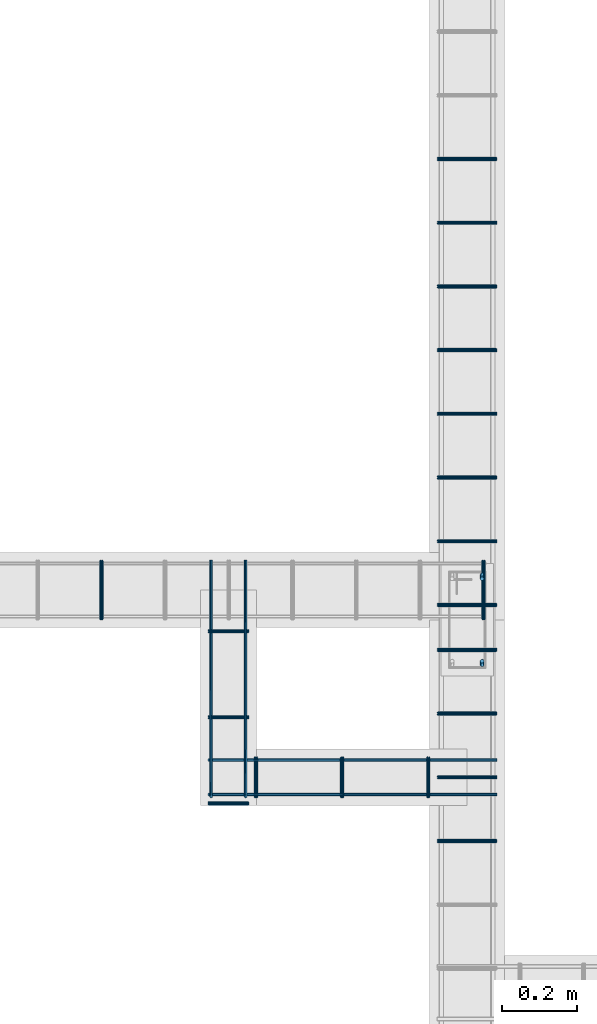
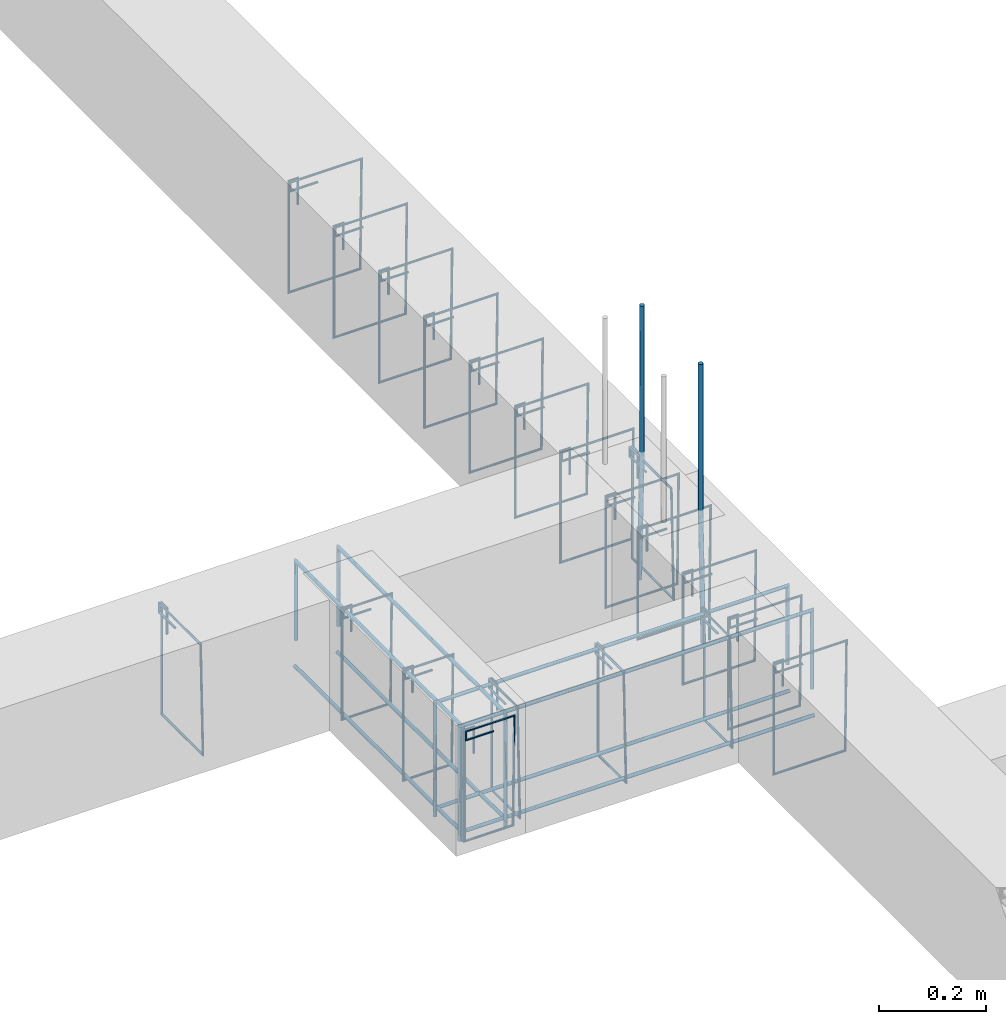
# One storey, part 65 of 150: 30 reinforcing bars.
"""IFC4 building model written with IfcOpenShell, lengths in centimetres."""

from ifc_helpers import new_model, entity, si_unit, derived_unit, frame, origin_with_axes, place, context, project, spatial, source, transform, mapped, element, save


model = new_model("IFC4")

# Units and contexts
model_context = context("Model", 3, precision=1e-05, world=origin_with_axes(), identifier="Body")
ifc_project = project(units=[si_unit("LENGTHUNIT", "METRE", prefix="CENTI"), si_unit("VOLUMEUNIT", "CUBIC_METRE"), si_unit("AREAUNIT", "SQUARE_METRE"), si_unit("POWERUNIT", "WATT"), si_unit("LUMINOUSFLUXUNIT", "LUMEN"), si_unit("ELECTRICCURRENTUNIT", "AMPERE"), si_unit("PRESSUREUNIT", "PASCAL", prefix="KILO"), si_unit("MASSUNIT", "GRAM", prefix="KILO"), si_unit("PLANEANGLEUNIT", "RADIAN"), derived_unit("VOLUMETRICFLOWRATEUNIT", [(si_unit("LENGTHUNIT", "METRE"), 3), (si_unit("TIMEUNIT", "SECOND"), -1)])], contexts=[model_context])

# Site, building, storey
site_placement = place(None, frame((-4000.0, 0.0, 0.0), z_axis=(0.0, 0.0, 1.0), x_axis=(1.0, 0.0, 0.0)))
site = spatial("IfcSite", under=ifc_project, at=site_placement, Name="PADRÃO")
building_placement = place(site_placement, frame((0.0, 0.0, -14.0)))
building = spatial("IfcBuilding", under=site, at=building_placement, Name="CRECHE PRÉ-ESCOLA TIPO 2")
placement = place(building_placement, origin_with_axes())
storey_placement = place(placement, frame((0.0, 0.0, 30.0), z_axis=(0.0, 0.0, 1.0), x_axis=(1.0, 0.0, 0.0)))
storey = spatial("IfcBuildingStorey", under=building, at=storey_placement, Name="VIGA BALDRAME", CompositionType="ELEMENT", Elevation=16.0)

# Reinforcing bars
shared_shape_1 = source(origin_with_axes(), model_context, "Body", "AdvancedSweptSolid", [
    entity("IfcSweptDiskSolid", entity("IfcCompositeCurve", [entity("IfcCompositeCurveSegment", "CONTINUOUS", True, entity("IfcPolyline", [entity("IfcCartesianPoint", [2.0, -6.0, 0.0]), entity("IfcCartesianPoint", [2.0, 0.0, 0.0])])), entity("IfcCompositeCurveSegment", "CONTINUOUS", True, entity("IfcPolyline", [entity("IfcCartesianPoint", [2.0, 0.0, 0.0]), entity("IfcCartesianPoint", [0.0, 0.0, 0.0])])), entity("IfcCompositeCurveSegment", "CONTINUOUS", True, entity("IfcPolyline", [entity("IfcCartesianPoint", [0.0, 0.0, 0.0]), entity("IfcCartesianPoint", [0.0, -25.5, 0.0])])), entity("IfcCompositeCurveSegment", "CONTINUOUS", True, entity("IfcPolyline", [entity("IfcCartesianPoint", [0.0, -25.5, 0.0]), entity("IfcCartesianPoint", [15.5, -25.5, 0.0])])), entity("IfcCompositeCurveSegment", "CONTINUOUS", True, entity("IfcPolyline", [entity("IfcCartesianPoint", [15.5, -25.5, 0.0]), entity("IfcCartesianPoint", [15.5, 0.0, 0.5])])), entity("IfcCompositeCurveSegment", "CONTINUOUS", True, entity("IfcPolyline", [entity("IfcCartesianPoint", [15.5, 0.0, 0.5]), entity("IfcCartesianPoint", [0.0, 0.0, 0.5])])), entity("IfcCompositeCurveSegment", "CONTINUOUS", True, entity("IfcPolyline", [entity("IfcCartesianPoint", [0.0, 0.0, 0.5]), entity("IfcCartesianPoint", [0.0, -2.0, 0.5])])), entity("IfcCompositeCurveSegment", "CONTINUOUS", True, entity("IfcPolyline", [entity("IfcCartesianPoint", [0.0, -2.0, 0.5]), entity("IfcCartesianPoint", [6.0, -2.0, 0.5])]))], False), 0.25),
])
for number, where, z_axis, x_axis, name in (
    (1, (495.94, 2669.255, -2.25), (0.0, -1.0, 0.0), (1.0, 0.0, 0.0), "V171 - Estribo"),
    (2, (495.94, 2652.255, -2.25), (0.0, -1.0, 0.0), (1.0, 0.0, 0.0), "V171 - Estribo"),
    (3, (495.94, 2618.255, -2.25), (0.0, -1.0, 0.0), (1.0, 0.0, 0.0), "V171 - Estribo"),
    (4, (495.94, 2635.255, -2.25), (0.0, -1.0, 0.0), (1.0, 0.0, 0.0), "V171 - Estribo"),
):
    element("IfcReinforcingBar", number, at=place(storey_placement, frame(where, z_axis=z_axis, x_axis=x_axis)), inside=storey, Name=name, BarLength=0.0, CrossSectionArea=1.9634954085e-05, NominalDiameter=0.5, PredefinedType="MAIN", context=model_context, shape_type="MappedRepresentation", body=[
        mapped(shared_shape_1, transform((0.0, 0.0, 0.0), scale=1.0)),
    ])
shared_shape_2 = source(origin_with_axes(), model_context, "Body", "AdvancedSweptSolid", [
    entity("IfcSweptDiskSolid", entity("IfcCompositeCurve", [entity("IfcCompositeCurveSegment", "CONTINUOUS", True, entity("IfcPolyline", [entity("IfcCartesianPoint", [2.0, -6.0, 0.0]), entity("IfcCartesianPoint", [2.0, 0.0, 0.0])])), entity("IfcCompositeCurveSegment", "CONTINUOUS", True, entity("IfcPolyline", [entity("IfcCartesianPoint", [2.0, 0.0, 0.0]), entity("IfcCartesianPoint", [0.0, 0.0, 0.0])])), entity("IfcCompositeCurveSegment", "CONTINUOUS", True, entity("IfcPolyline", [entity("IfcCartesianPoint", [0.0, 0.0, 0.0]), entity("IfcCartesianPoint", [0.0, -25.5, 0.0])])), entity("IfcCompositeCurveSegment", "CONTINUOUS", True, entity("IfcPolyline", [entity("IfcCartesianPoint", [0.0, -25.5, 0.0]), entity("IfcCartesianPoint", [15.5, -25.5, 0.0])])), entity("IfcCompositeCurveSegment", "CONTINUOUS", True, entity("IfcPolyline", [entity("IfcCartesianPoint", [15.5, -25.5, 0.0]), entity("IfcCartesianPoint", [15.5, 0.0, 0.5])])), entity("IfcCompositeCurveSegment", "CONTINUOUS", True, entity("IfcPolyline", [entity("IfcCartesianPoint", [15.5, 0.0, 0.5]), entity("IfcCartesianPoint", [0.0, 0.0, 0.5])])), entity("IfcCompositeCurveSegment", "CONTINUOUS", True, entity("IfcPolyline", [entity("IfcCartesianPoint", [0.0, 0.0, 0.5]), entity("IfcCartesianPoint", [0.0, -2.0, 0.5])])), entity("IfcCompositeCurveSegment", "CONTINUOUS", True, entity("IfcPolyline", [entity("IfcCartesianPoint", [0.0, -2.0, 0.5]), entity("IfcCartesianPoint", [6.0, -2.0, 0.5])]))], False), 0.25),
])
for number, where, z_axis, x_axis, name in (
    (5, (495.94, 2749.255, -2.25), (0.0, -1.0, 0.0), (1.0, 0.0, 0.0), "V171 - Estribo"),
    (6, (495.94, 2732.255, -2.25), (0.0, -1.0, 0.0), (1.0, 0.0, 0.0), "V171 - Estribo"),
    (7, (495.94, 2715.255, -2.25), (0.0, -1.0, 0.0), (1.0, 0.0, 0.0), "V171 - Estribo"),
    (8, (495.94, 2698.255, -2.25), (0.0, -1.0, 0.0), (1.0, 0.0, 0.0), "V171 - Estribo"),
    (9, (495.94, 2681.255, -2.25), (0.0, -1.0, 0.0), (1.0, 0.0, 0.0), "V171 - Estribo"),
    (10, (495.94, 2800.255, -2.25), (0.0, -1.0, 0.0), (1.0, 0.0, 0.0), "V171 - Estribo"),
    (11, (495.94, 2783.255, -2.25), (0.0, -1.0, 0.0), (1.0, 0.0, 0.0), "V171 - Estribo"),
    (12, (495.94, 2766.255, -2.25), (0.0, -1.0, 0.0), (1.0, 0.0, 0.0), "V171 - Estribo"),
):
    element("IfcReinforcingBar", number, at=place(storey_placement, frame(where, z_axis=z_axis, x_axis=x_axis)), inside=storey, Name=name, BarLength=0.0, CrossSectionArea=1.9634954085e-05, NominalDiameter=0.5, PredefinedType="MAIN", context=model_context, shape_type="MappedRepresentation", body=[
        mapped(shared_shape_2, transform((0.0, 0.0, 0.0), scale=1.0)),
    ])
shared_shape_3 = source(origin_with_axes(), model_context, "Body", "AdvancedSweptSolid", [
    entity("IfcSweptDiskSolid", entity("IfcCompositeCurve", [entity("IfcCompositeCurveSegment", "CONTINUOUS", True, entity("IfcPolyline", [entity("IfcCartesianPoint", [2.0, -6.0, 0.0]), entity("IfcCartesianPoint", [2.0, 0.0, 0.0])])), entity("IfcCompositeCurveSegment", "CONTINUOUS", True, entity("IfcPolyline", [entity("IfcCartesianPoint", [2.0, 0.0, 0.0]), entity("IfcCartesianPoint", [0.0, 0.0, 0.0])])), entity("IfcCompositeCurveSegment", "CONTINUOUS", True, entity("IfcPolyline", [entity("IfcCartesianPoint", [0.0, 0.0, 0.0]), entity("IfcCartesianPoint", [0.0, -25.5, 0.0])])), entity("IfcCompositeCurveSegment", "CONTINUOUS", True, entity("IfcPolyline", [entity("IfcCartesianPoint", [0.0, -25.5, 0.0]), entity("IfcCartesianPoint", [15.5, -25.5, 0.0])])), entity("IfcCompositeCurveSegment", "CONTINUOUS", True, entity("IfcPolyline", [entity("IfcCartesianPoint", [15.5, -25.5, 0.0]), entity("IfcCartesianPoint", [15.5, 0.0, 0.5])])), entity("IfcCompositeCurveSegment", "CONTINUOUS", True, entity("IfcPolyline", [entity("IfcCartesianPoint", [15.5, 0.0, 0.5]), entity("IfcCartesianPoint", [0.0, 0.0, 0.5])])), entity("IfcCompositeCurveSegment", "CONTINUOUS", True, entity("IfcPolyline", [entity("IfcCartesianPoint", [0.0, 0.0, 0.5]), entity("IfcCartesianPoint", [0.0, -2.0, 0.5])])), entity("IfcCompositeCurveSegment", "CONTINUOUS", True, entity("IfcPolyline", [entity("IfcCartesianPoint", [0.0, -2.0, 0.5]), entity("IfcCartesianPoint", [6.0, -2.0, 0.5])]))], False), 0.25),
])
for number, where, z_axis, x_axis, name in (
    (13, (508.345, 2692.76, -2.25), (-1.0, 0.0, 0.0), (0.0, -1.0, 0.0), "V117 - Estribo"),
    (14, (406.345, 2692.76, -2.25), (-1.0, 0.0, 0.0), (0.0, -1.0, 0.0), "V117 - Estribo"),
):
    element("IfcReinforcingBar", number, at=place(storey_placement, frame(where, z_axis=z_axis, x_axis=x_axis)), inside=storey, Name=name, BarLength=0.0, CrossSectionArea=1.9634954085e-05, NominalDiameter=0.5, PredefinedType="MAIN", context=model_context, shape_type="MappedRepresentation", body=[
        mapped(shared_shape_3, transform((0.0, 0.0, 0.0), scale=1.0)),
    ])
shared_shape_4 = source(origin_with_axes(), model_context, "Body", "AdvancedSweptSolid", [
    entity("IfcSweptDiskSolid", entity("IfcCompositeCurve", [entity("IfcCompositeCurveSegment", "CONTINUOUS", True, entity("IfcPolyline", [entity("IfcCartesianPoint", [2.0, -6.0, 0.0]), entity("IfcCartesianPoint", [2.0, 0.0, 0.0])])), entity("IfcCompositeCurveSegment", "CONTINUOUS", True, entity("IfcPolyline", [entity("IfcCartesianPoint", [2.0, 0.0, 0.0]), entity("IfcCartesianPoint", [0.0, 0.0, 0.0])])), entity("IfcCompositeCurveSegment", "CONTINUOUS", True, entity("IfcPolyline", [entity("IfcCartesianPoint", [0.0, 0.0, 0.0]), entity("IfcCartesianPoint", [0.0, -25.5, 0.0])])), entity("IfcCompositeCurveSegment", "CONTINUOUS", True, entity("IfcPolyline", [entity("IfcCartesianPoint", [0.0, -25.5, 0.0]), entity("IfcCartesianPoint", [10.5, -25.5, 0.0])])), entity("IfcCompositeCurveSegment", "CONTINUOUS", True, entity("IfcPolyline", [entity("IfcCartesianPoint", [10.5, -25.5, 0.0]), entity("IfcCartesianPoint", [10.5, 0.0, 0.5])])), entity("IfcCompositeCurveSegment", "CONTINUOUS", True, entity("IfcPolyline", [entity("IfcCartesianPoint", [10.5, 0.0, 0.5]), entity("IfcCartesianPoint", [0.0, 0.0, 0.5])])), entity("IfcCompositeCurveSegment", "CONTINUOUS", True, entity("IfcPolyline", [entity("IfcCartesianPoint", [0.0, 0.0, 0.5]), entity("IfcCartesianPoint", [0.0, -2.0, 0.5])])), entity("IfcCompositeCurveSegment", "CONTINUOUS", True, entity("IfcPolyline", [entity("IfcCartesianPoint", [0.0, -2.0, 0.5]), entity("IfcCartesianPoint", [6.0, -2.0, 0.5])]))], False), 0.25),
])
for number, where, z_axis, x_axis, name in (
    (15, (434.74, 2674.26, -2.25), (0.0, -1.0, 0.0), (1.0, 0.0, 0.0), "V170 - Estribo"),
    (16, (434.74, 2651.26, -2.25), (0.0, -1.0, 0.0), (1.0, 0.0, 0.0), "V170 - Estribo"),
    (17, (434.74, 2628.26, -2.25), (0.0, -1.0, 0.0), (1.0, 0.0, 0.0), "V170 - Estribo"),
):
    element("IfcReinforcingBar", number, at=place(storey_placement, frame(where, z_axis=z_axis, x_axis=x_axis)), inside=storey, Name=name, BarLength=0.0, CrossSectionArea=1.9634954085e-05, NominalDiameter=0.5, PredefinedType="MAIN", context=model_context, shape_type="MappedRepresentation", body=[
        mapped(shared_shape_4, transform((0.0, 0.0, 0.0), scale=1.0)),
    ])
shared_shape_5 = source(origin_with_axes(), model_context, "Body", "AdvancedSweptSolid", [
    entity("IfcSweptDiskSolid", entity("IfcCompositeCurve", [entity("IfcCompositeCurveSegment", "CONTINUOUS", True, entity("IfcPolyline", [entity("IfcCartesianPoint", [2.0, -6.0, 0.0]), entity("IfcCartesianPoint", [2.0, 0.0, 0.0])])), entity("IfcCompositeCurveSegment", "CONTINUOUS", True, entity("IfcPolyline", [entity("IfcCartesianPoint", [2.0, 0.0, 0.0]), entity("IfcCartesianPoint", [0.0, 0.0, 0.0])])), entity("IfcCompositeCurveSegment", "CONTINUOUS", True, entity("IfcPolyline", [entity("IfcCartesianPoint", [0.0, 0.0, 0.0]), entity("IfcCartesianPoint", [0.0, -25.5, 0.0])])), entity("IfcCompositeCurveSegment", "CONTINUOUS", True, entity("IfcPolyline", [entity("IfcCartesianPoint", [0.0, -25.5, 0.0]), entity("IfcCartesianPoint", [10.5, -25.5, 0.0])])), entity("IfcCompositeCurveSegment", "CONTINUOUS", True, entity("IfcPolyline", [entity("IfcCartesianPoint", [10.5, -25.5, 0.0]), entity("IfcCartesianPoint", [10.5, 0.0, 0.5])])), entity("IfcCompositeCurveSegment", "CONTINUOUS", True, entity("IfcPolyline", [entity("IfcCartesianPoint", [10.5, 0.0, 0.5]), entity("IfcCartesianPoint", [0.0, 0.0, 0.5])])), entity("IfcCompositeCurveSegment", "CONTINUOUS", True, entity("IfcPolyline", [entity("IfcCartesianPoint", [0.0, 0.0, 0.5]), entity("IfcCartesianPoint", [0.0, -2.0, 0.5])])), entity("IfcCompositeCurveSegment", "CONTINUOUS", True, entity("IfcPolyline", [entity("IfcCartesianPoint", [0.0, -2.0, 0.5]), entity("IfcCartesianPoint", [6.0, -2.0, 0.5])]))], False), 0.25),
])
for number, where, z_axis, x_axis, name in (
    (18, (493.59, 2640.26, -2.25), (-1.0, 0.0, 0.0), (0.0, -1.0, 0.0), "V119 - Estribo"),
    (19, (470.59, 2640.26, -2.25), (-1.0, 0.0, 0.0), (0.0, -1.0, 0.0), "V119 - Estribo"),
    (20, (447.59, 2640.26, -2.25), (-1.0, 0.0, 0.0), (0.0, -1.0, 0.0), "V119 - Estribo"),
):
    element("IfcReinforcingBar", number, at=place(storey_placement, frame(where, z_axis=z_axis, x_axis=x_axis)), inside=storey, Name=name, BarLength=0.0, CrossSectionArea=1.9634954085e-05, NominalDiameter=0.5, PredefinedType="MAIN", context=model_context, shape_type="MappedRepresentation", body=[
        mapped(shared_shape_5, transform((0.0, 0.0, 0.0), scale=1.0)),
    ])
reinforcing_bar_1_placement = place(storey_placement, frame((507.69, 2688.50986122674, 33.3573001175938), z_axis=(0.0, 0.0, 1.0), x_axis=(1.0, 0.0, 0.0)))
element("IfcReinforcingBar", 21, at=reinforcing_bar_1_placement, inside=storey, Name="P66 - Longitudinal", BarLength=0.0, CrossSectionArea=7.853981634e-05, NominalDiameter=1.0, PredefinedType="MAIN", context=model_context, shape_type="AdvancedSweptSolid", body=[
    entity("IfcSweptDiskSolid", entity("IfcCompositeCurve", [entity("IfcCompositeCurveSegment", "CONTINUOUS", True, entity("IfcPolyline", [entity("IfcCartesianPoint", [0.0, 0.500138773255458, -63.3573001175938]), entity("IfcCartesianPoint", [0.0, -0.499861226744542, -33.3573001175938])])), entity("IfcCompositeCurveSegment", "CONTINUOUS", True, entity("IfcPolyline", [entity("IfcCartesianPoint", [0.0, -0.499861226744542, -33.3573001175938]), entity("IfcCartesianPoint", [0.0, -0.499861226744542, 0.0])]))], False), 0.5),
])
reinforcing_bar_2_placement = place(storey_placement, frame((507.69, 2665.51013877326, 33.3573001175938), z_axis=(0.0, 0.0, 1.0), x_axis=(1.0, 0.0, 0.0)))
element("IfcReinforcingBar", 22, at=reinforcing_bar_2_placement, inside=storey, Name="P66 - Longitudinal", BarLength=0.0, CrossSectionArea=7.853981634e-05, NominalDiameter=1.0, PredefinedType="MAIN", context=model_context, shape_type="AdvancedSweptSolid", body=[
    entity("IfcSweptDiskSolid", entity("IfcCompositeCurve", [entity("IfcCompositeCurveSegment", "CONTINUOUS", True, entity("IfcPolyline", [entity("IfcCartesianPoint", [0.0, -0.500138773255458, -63.3573001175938]), entity("IfcCartesianPoint", [0.0, 0.499861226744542, -33.3573001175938])])), entity("IfcCompositeCurveSegment", "CONTINUOUS", True, entity("IfcPolyline", [entity("IfcCartesianPoint", [0.0, 0.499861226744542, -33.3573001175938]), entity("IfcCartesianPoint", [0.0, 0.499861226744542, 0.0])]))], False), 0.5),
])
for number, where, z_axis, x_axis, name in (
    (23, (473.0881248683, 2639.61, -17.1), (0.0, 0.0, 1.0), (1.0, 0.0, 0.0), "V119 - Longitudinal inferior"),
    (24, (473.0881248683, 2630.41, -17.1), (0.0, 0.0, 1.0), (1.0, 0.0, 0.0), "V119 - Longitudinal inferior"),
):
    element("IfcReinforcingBar", number, at=place(storey_placement, frame(where, z_axis=z_axis, x_axis=x_axis)), inside=storey, Name=name, BarLength=0.0, CrossSectionArea=5.0265482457e-05, NominalDiameter=0.8, PredefinedType="MAIN", context=model_context, shape_type="AdvancedSweptSolid", body=[
        entity("IfcSweptDiskSolid", entity("IfcCompositeCurve", [entity("IfcCompositeCurveSegment", "CONTINUOUS", True, entity("IfcPolyline", [entity("IfcCartesianPoint", [-38.1981248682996, 0.0, 0.0]), entity("IfcCartesianPoint", [-38.1981248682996, 0.0, -10.0])])), entity("IfcCompositeCurveSegment", "CONTINUOUS", True, entity("IfcPolyline", [entity("IfcCartesianPoint", [-38.1981248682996, 0.0, -10.0]), entity("IfcCartesianPoint", [38.6018751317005, 0.0, -10.0])]))], False), 0.4),
    ])
for number, where, z_axis, x_axis, name in (
    (25, (473.09, 2630.41, -2.49624973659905), (0.0, 0.0, 1.0), (1.0, 0.0, 0.0), "V119 - Longitudinal superior"),
    (26, (473.09, 2639.61, -2.49624973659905), (0.0, 0.0, 1.0), (1.0, 0.0, 0.0), "V119 - Longitudinal superior"),
):
    element("IfcReinforcingBar", number, at=place(storey_placement, frame(where, z_axis=z_axis, x_axis=x_axis)), inside=storey, Name=name, BarLength=0.0, CrossSectionArea=5.0265482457e-05, NominalDiameter=0.8, PredefinedType="MAIN", context=model_context, shape_type="AdvancedSweptSolid", body=[
        entity("IfcSweptDiskSolid", entity("IfcCompositeCurve", [entity("IfcCompositeCurveSegment", "CONTINUOUS", True, entity("IfcPolyline", [entity("IfcCartesianPoint", [-38.2, 0.0, -26.403750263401]), entity("IfcCartesianPoint", [-38.2, 0.0, -0.403750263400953])])), entity("IfcCompositeCurveSegment", "CONTINUOUS", True, entity("IfcPolyline", [entity("IfcCartesianPoint", [-38.2, 0.0, -0.403750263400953]), entity("IfcCartesianPoint", [38.2, 0.0, -0.403750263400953])])), entity("IfcCompositeCurveSegment", "CONTINUOUS", True, entity("IfcPolyline", [entity("IfcCartesianPoint", [38.2, 0.0, -0.403750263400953]), entity("IfcCartesianPoint", [38.2, 0.0, -18.3215550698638])]))], False), 0.4),
    ])
for number, where, z_axis, x_axis, name in (
    (27, (435.39, 2661.2581248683, -9.18219519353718), (0.0, 0.0, 1.0), (1.0, 0.0, 0.0), "V170 - Longitudinal inferior"),
    (28, (444.59, 2661.2581248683, -9.18219519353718), (0.0, 0.0, 1.0), (1.0, 0.0, 0.0), "V170 - Longitudinal inferior"),
):
    element("IfcReinforcingBar", number, at=place(storey_placement, frame(where, z_axis=z_axis, x_axis=x_axis)), inside=storey, Name=name, BarLength=0.0, CrossSectionArea=5.0265482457e-05, NominalDiameter=0.8, PredefinedType="MAIN", context=model_context, shape_type="AdvancedSweptSolid", body=[
        entity("IfcSweptDiskSolid", entity("IfcCompositeCurve", [entity("IfcCompositeCurveSegment", "CONTINUOUS", True, entity("IfcPolyline", [entity("IfcCartesianPoint", [0.0, -31.3481248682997, 0.0]), entity("IfcCartesianPoint", [0.0, -31.3481248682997, -17.9178048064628])])), entity("IfcCompositeCurveSegment", "CONTINUOUS", True, entity("IfcPolyline", [entity("IfcCartesianPoint", [0.0, -31.3481248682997, -17.9178048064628]), entity("IfcCartesianPoint", [0.0, 31.7518751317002, -17.9178048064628])]))], False), 0.4),
    ])
for number, where, z_axis, x_axis, name in (
    (29, (444.59, 2661.26, -2.49624973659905), (0.0, 0.0, 1.0), (1.0, 0.0, 0.0), "V170 - Longitudinal superior"),
    (30, (435.39, 2661.26, -2.49624973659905), (0.0, 0.0, 1.0), (1.0, 0.0, 0.0), "V170 - Longitudinal superior"),
):
    element("IfcReinforcingBar", number, at=place(storey_placement, frame(where, z_axis=z_axis, x_axis=x_axis)), inside=storey, Name=name, BarLength=0.0, CrossSectionArea=5.0265482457e-05, NominalDiameter=0.8, PredefinedType="MAIN", context=model_context, shape_type="AdvancedSweptSolid", body=[
        entity("IfcSweptDiskSolid", entity("IfcCompositeCurve", [entity("IfcCompositeCurveSegment", "CONTINUOUS", True, entity("IfcPolyline", [entity("IfcCartesianPoint", [0.0, -31.35, -26.403750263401]), entity("IfcCartesianPoint", [0.0, -31.35, -0.403750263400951])])), entity("IfcCompositeCurveSegment", "CONTINUOUS", True, entity("IfcPolyline", [entity("IfcCartesianPoint", [0.0, -31.35, -0.403750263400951]), entity("IfcCartesianPoint", [0.0, 31.35, -0.403750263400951])])), entity("IfcCompositeCurveSegment", "CONTINUOUS", True, entity("IfcPolyline", [entity("IfcCartesianPoint", [0.0, 31.35, -0.403750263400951]), entity("IfcCartesianPoint", [0.0, 31.35, -18.3215550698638])]))], False), 0.4),
    ])

save(model, "model.ifc")
